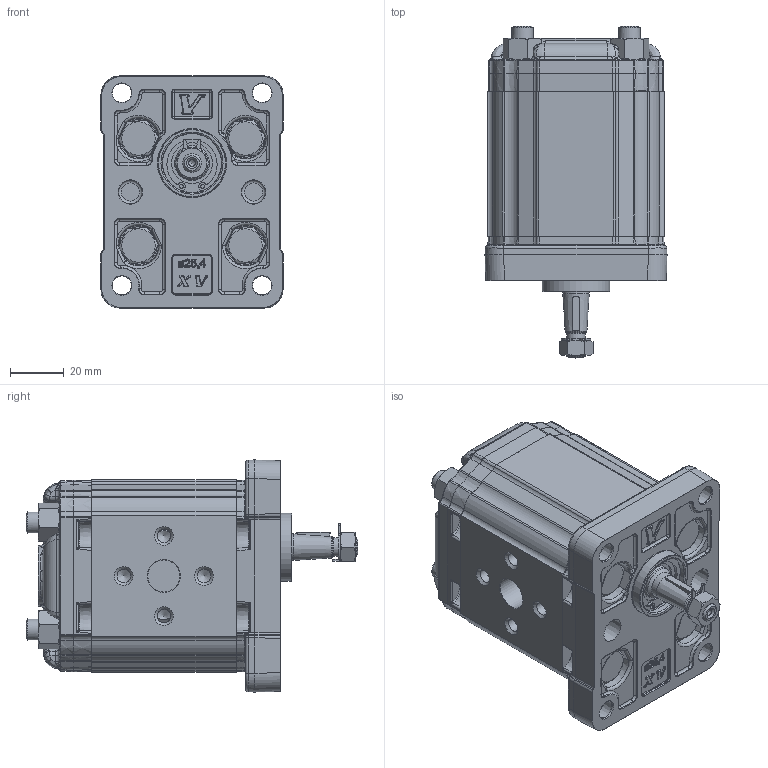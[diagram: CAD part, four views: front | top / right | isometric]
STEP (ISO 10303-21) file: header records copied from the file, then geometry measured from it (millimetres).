
FILE_DESCRIPTION(/* description */ ('Unknown'),/* implementation_level */ '2;1');
FILE_NAME(/* name */ 'X1R2701FIIE',/* time_stamp */ '2026-05-26T18:54:13+02:00',/* author */ ('Unknown'),/* organization */ ('Unknown'),/* preprocessor_version */ 'ST-DEVELOPER v16.7',/* originating_system */ 'Solid Edge',/* authorisation */ 'Unknown');
FILE_SCHEMA (('AUTOMOTIVE_DESIGN {1 0 10303 214 3 1 1}'));
Products named in the file (5): X1R2701FIIE; X1R01; 1F; X1IIH54; XR101-E
Assembly tree (4 placements, depth 2):
  X1R2701FIIE
    X1R01
    1F
    X1IIH54
    XR101-E
Bounding box: 68 x 123.99 x 86.7 mm (x, y, z)
Volume: 364428.3 mm3; surface area: 75469.2 mm2
Topology: 6 solids, 7 shells, 2113 faces, 5028 edges, 2974 vertices
Faces by surface type: cylinder 643, bspline 482, plane 433, torus 277, cone 248, sphere 30
Full cylindrical faces by diameter (mm): 1.447 x2, 2.5 x1, 3.65 x2, 5 x8, 7 x2, 7.15 x4, 7.25 x1, 8 x12, 8.5 x6, 9 x2, 9.92 x1, 10.5 x2, 11.445 x1, 11.965 x1, 12 x8, 12.923 x1, 15.115 x1, 15.181 x1, 19 x1, 20 x1, 22 x2, 22.2 x1, 23 x1, 25.4 x1
Entity records: 99471 total; most frequent: CARTESIAN_POINT 39694, ORIENTED_EDGE 9396, DIRECTION 9133, EDGE_CURVE 4698, AXIS2_PLACEMENT_3D 3906, VERTEX_POINT 2873, FACE_BOUND 2425, EDGE_LOOP 2415
